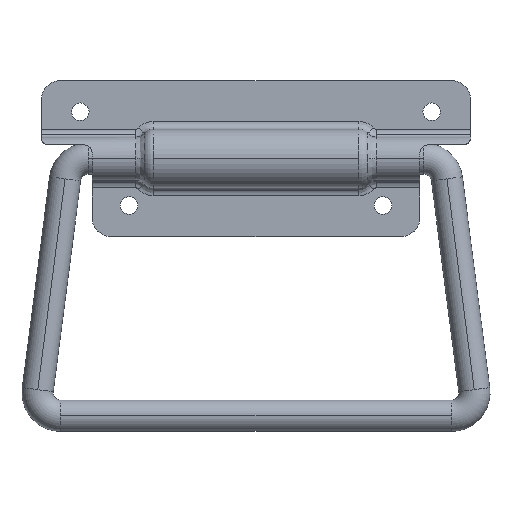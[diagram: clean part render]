
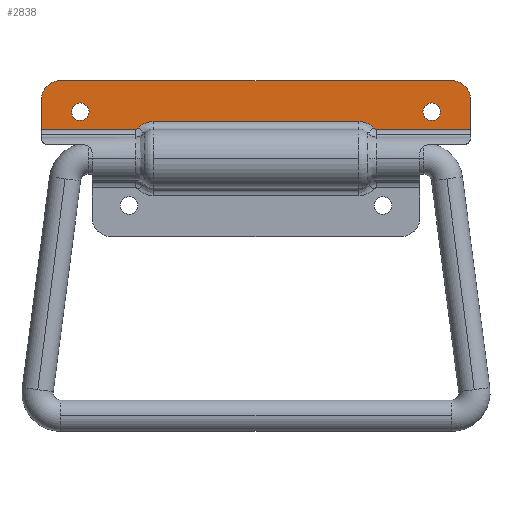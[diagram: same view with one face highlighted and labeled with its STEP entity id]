
A CAD part, left-side view. The second image highlights one B-rep face of the part: STEP entity #2838.
In plain terms, the highlighted planar face has unit normal (-1, 0, 0) as drawn and (0, 1, 0) by its records, which use the part's own axes.
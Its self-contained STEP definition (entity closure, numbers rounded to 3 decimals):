
#143=CARTESIAN_POINT('',(7.0,-88.683,27.257));
#144=VERTEX_POINT('',#143);
#160=CARTESIAN_POINT('',(7.0,-88.683,22.757));
#161=VERTEX_POINT('',#160);
#168=CARTESIAN_POINT('',(7.0,-88.683,25.007));
#169=DIRECTION('',(0.0,-1.0,0.0));
#170=DIRECTION('',(0.0,0.0,1.0));
#171=AXIS2_PLACEMENT_3D('',#168,#169,#170);
#172=CIRCLE('',#171,2.25);
#173=EDGE_CURVE('',#144,#161,#172,.T.);
#185=CARTESIAN_POINT('',(97.0,-88.683,27.257));
#186=VERTEX_POINT('',#185);
#202=CARTESIAN_POINT('',(97.0,-88.683,22.757));
#203=VERTEX_POINT('',#202);
#210=CARTESIAN_POINT('',(97.0,-88.683,25.007));
#211=DIRECTION('',(0.0,-1.0,0.0));
#212=DIRECTION('',(0.0,0.0,1.0));
#213=AXIS2_PLACEMENT_3D('',#210,#211,#212);
#214=CIRCLE('',#213,2.25);
#215=EDGE_CURVE('',#186,#203,#214,.T.);
#433=CARTESIAN_POINT('',(-1.536,-88.683,18.472));
#434=VERTEX_POINT('',#433);
#443=CARTESIAN_POINT('',(2.0,-88.683,17.007));
#444=VERTEX_POINT('',#443);
#445=CARTESIAN_POINT('',(2.,-88.683,22.007));
#446=DIRECTION('',(0.0,-1.,0.0));
#447=DIRECTION('',(-0.707,0.0,-0.707));
#448=AXIS2_PLACEMENT_3D('',#445,#446,#447);
#449=CIRCLE('',#448,5.);
#450=EDGE_CURVE('',#434,#444,#449,.T.);
#475=CARTESIAN_POINT('',(105.536,-88.683,18.472));
#476=VERTEX_POINT('',#475);
#485=CARTESIAN_POINT('',(107.0,-88.683,22.007));
#486=VERTEX_POINT('',#485);
#487=CARTESIAN_POINT('',(102.0,-88.683,22.007));
#488=DIRECTION('',(0.0,-1.,0.0));
#489=DIRECTION('',(0.707,0.0,-0.707));
#490=AXIS2_PLACEMENT_3D('',#487,#488,#489);
#491=CIRCLE('',#490,5.);
#492=EDGE_CURVE('',#476,#486,#491,.T.);
#1587=CARTESIAN_POINT('',(107.0,-88.683,29.507));
#1588=VERTEX_POINT('',#1587);
#1596=CARTESIAN_POINT('',(82.828,-88.683,29.507));
#1597=VERTEX_POINT('',#1596);
#1598=CARTESIAN_POINT('',(107.0,-88.683,29.507));
#1599=DIRECTION('',(-1.0,0.0,0.0));
#1600=VECTOR('',#1599,24.172);
#1601=LINE('',#1598,#1600);
#1602=EDGE_CURVE('',#1588,#1597,#1601,.T.);
#1704=CARTESIAN_POINT('',(21.172,-88.683,29.507));
#1705=VERTEX_POINT('',#1704);
#1713=CARTESIAN_POINT('',(-3.0,-88.683,29.507));
#1714=VERTEX_POINT('',#1713);
#1715=CARTESIAN_POINT('',(21.172,-88.683,29.507));
#1716=DIRECTION('',(-1.0,0.0,0.0));
#1717=VECTOR('',#1716,24.172);
#1718=LINE('',#1715,#1717);
#1719=EDGE_CURVE('',#1705,#1714,#1718,.T.);
#1754=CARTESIAN_POINT('',(21.917,-88.683,29.174));
#1755=VERTEX_POINT('',#1754);
#1763=CARTESIAN_POINT('',(21.172,-88.683,28.507));
#1764=DIRECTION('',(0.0,-1.,0.0));
#1765=DIRECTION('',(0.408,0.0,0.913));
#1766=AXIS2_PLACEMENT_3D('',#1763,#1764,#1765);
#1767=CIRCLE('',#1766,1.);
#1768=EDGE_CURVE('',#1755,#1705,#1767,.T.);
#1806=CARTESIAN_POINT('',(25.644,-88.683,27.507));
#1807=VERTEX_POINT('',#1806);
#1815=CARTESIAN_POINT('',(25.644,-88.683,32.507));
#1816=DIRECTION('',(0.0,1.0,0.0));
#1817=DIRECTION('',(-0.408,0.0,-0.913));
#1818=AXIS2_PLACEMENT_3D('',#1815,#1816,#1817);
#1819=CIRCLE('',#1818,5.0);
#1820=EDGE_CURVE('',#1807,#1755,#1819,.T.);
#1840=CARTESIAN_POINT('',(78.356,-88.683,27.507));
#1841=VERTEX_POINT('',#1840);
#1849=CARTESIAN_POINT('',(78.356,-88.683,27.507));
#1850=DIRECTION('',(-1.0,0.0,0.0));
#1851=VECTOR('',#1850,52.713);
#1852=LINE('',#1849,#1851);
#1853=EDGE_CURVE('',#1841,#1807,#1852,.T.);
#1882=CARTESIAN_POINT('',(82.083,-88.683,29.174));
#1883=VERTEX_POINT('',#1882);
#1891=CARTESIAN_POINT('',(78.356,-88.683,32.507));
#1892=DIRECTION('',(0.0,1.,0.0));
#1893=DIRECTION('',(0.408,0.0,-0.913));
#1894=AXIS2_PLACEMENT_3D('',#1891,#1892,#1893);
#1895=CIRCLE('',#1894,5.);
#1896=EDGE_CURVE('',#1883,#1841,#1895,.T.);
#1944=CARTESIAN_POINT('',(82.828,-88.683,28.507));
#1945=DIRECTION('',(0.0,-1.,0.0));
#1946=DIRECTION('',(-0.408,0.0,0.913));
#1947=AXIS2_PLACEMENT_3D('',#1944,#1945,#1946);
#1948=CIRCLE('',#1947,1.);
#1949=EDGE_CURVE('',#1597,#1883,#1948,.T.);
#2766=CARTESIAN_POINT('',(-3.0,-88.683,23.511));
#2767=DIRECTION('',(0.0,1.0,0.0));
#2768=DIRECTION('',(0.0,0.0,1.0));
#2769=AXIS2_PLACEMENT_3D('',#2766,#2767,#2768);
#2770=PLANE('',#2769);
#2771=ORIENTED_EDGE('',*,*,#1602,.F.);
#2772=CARTESIAN_POINT('',(107.0,-88.683,29.507));
#2773=DIRECTION('',(0.0,0.0,-1.0));
#2774=VECTOR('',#2773,7.5);
#2775=LINE('',#2772,#2774);
#2776=EDGE_CURVE('',#1588,#486,#2775,.T.);
#2777=ORIENTED_EDGE('',*,*,#2776,.T.);
#2778=ORIENTED_EDGE('',*,*,#492,.F.);
#2779=CARTESIAN_POINT('',(102.0,-88.683,17.007));
#2780=VERTEX_POINT('',#2779);
#2781=CARTESIAN_POINT('',(102.0,-88.683,22.007));
#2782=DIRECTION('',(0.0,-1.,0.0));
#2783=DIRECTION('',(0.707,0.0,-0.707));
#2784=AXIS2_PLACEMENT_3D('',#2781,#2782,#2783);
#2785=CIRCLE('',#2784,5.);
#2786=EDGE_CURVE('',#2780,#476,#2785,.T.);
#2787=ORIENTED_EDGE('',*,*,#2786,.F.);
#2788=CARTESIAN_POINT('',(2.0,-88.683,17.007));
#2789=DIRECTION('',(1.0,0.0,0.0));
#2790=VECTOR('',#2789,100.0);
#2791=LINE('',#2788,#2790);
#2792=EDGE_CURVE('',#444,#2780,#2791,.T.);
#2793=ORIENTED_EDGE('',*,*,#2792,.F.);
#2794=ORIENTED_EDGE('',*,*,#450,.F.);
#2795=CARTESIAN_POINT('',(-3.0,-88.683,22.007));
#2796=VERTEX_POINT('',#2795);
#2797=CARTESIAN_POINT('',(2.,-88.683,22.007));
#2798=DIRECTION('',(0.0,-1.,0.0));
#2799=DIRECTION('',(-0.707,0.0,-0.707));
#2800=AXIS2_PLACEMENT_3D('',#2797,#2798,#2799);
#2801=CIRCLE('',#2800,5.);
#2802=EDGE_CURVE('',#2796,#434,#2801,.T.);
#2803=ORIENTED_EDGE('',*,*,#2802,.F.);
#2804=CARTESIAN_POINT('',(-3.0,-88.683,29.507));
#2805=DIRECTION('',(0.0,0.0,-1.0));
#2806=VECTOR('',#2805,7.5);
#2807=LINE('',#2804,#2806);
#2808=EDGE_CURVE('',#1714,#2796,#2807,.T.);
#2809=ORIENTED_EDGE('',*,*,#2808,.F.);
#2810=ORIENTED_EDGE('',*,*,#1719,.F.);
#2811=ORIENTED_EDGE('',*,*,#1768,.F.);
#2812=ORIENTED_EDGE('',*,*,#1820,.F.);
#2813=ORIENTED_EDGE('',*,*,#1853,.F.);
#2814=ORIENTED_EDGE('',*,*,#1896,.F.);
#2815=ORIENTED_EDGE('',*,*,#1949,.F.);
#2816=EDGE_LOOP('',(#2771,#2777,#2778,#2787,#2793,#2794,#2803,#2809,#2810,#2811,#2812,#2813,#2814,#2815));
#2817=FACE_OUTER_BOUND('',#2816,.T.);
#2818=ORIENTED_EDGE('',*,*,#173,.T.);
#2819=CARTESIAN_POINT('',(7.0,-88.683,25.007));
#2820=DIRECTION('',(0.0,-1.0,0.0));
#2821=DIRECTION('',(0.0,0.0,1.0));
#2822=AXIS2_PLACEMENT_3D('',#2819,#2820,#2821);
#2823=CIRCLE('',#2822,2.25);
#2824=EDGE_CURVE('',#161,#144,#2823,.T.);
#2825=ORIENTED_EDGE('',*,*,#2824,.T.);
#2826=EDGE_LOOP('',(#2818,#2825));
#2827=FACE_BOUND('',#2826,.T.);
#2828=ORIENTED_EDGE('',*,*,#215,.T.);
#2829=CARTESIAN_POINT('',(97.0,-88.683,25.007));
#2830=DIRECTION('',(0.0,-1.0,0.0));
#2831=DIRECTION('',(0.0,0.0,1.0));
#2832=AXIS2_PLACEMENT_3D('',#2829,#2830,#2831);
#2833=CIRCLE('',#2832,2.25);
#2834=EDGE_CURVE('',#203,#186,#2833,.T.);
#2835=ORIENTED_EDGE('',*,*,#2834,.T.);
#2836=EDGE_LOOP('',(#2828,#2835));
#2837=FACE_BOUND('',#2836,.T.);
#2838=ADVANCED_FACE('',(#2817,#2827,#2837),#2770,.T.);
